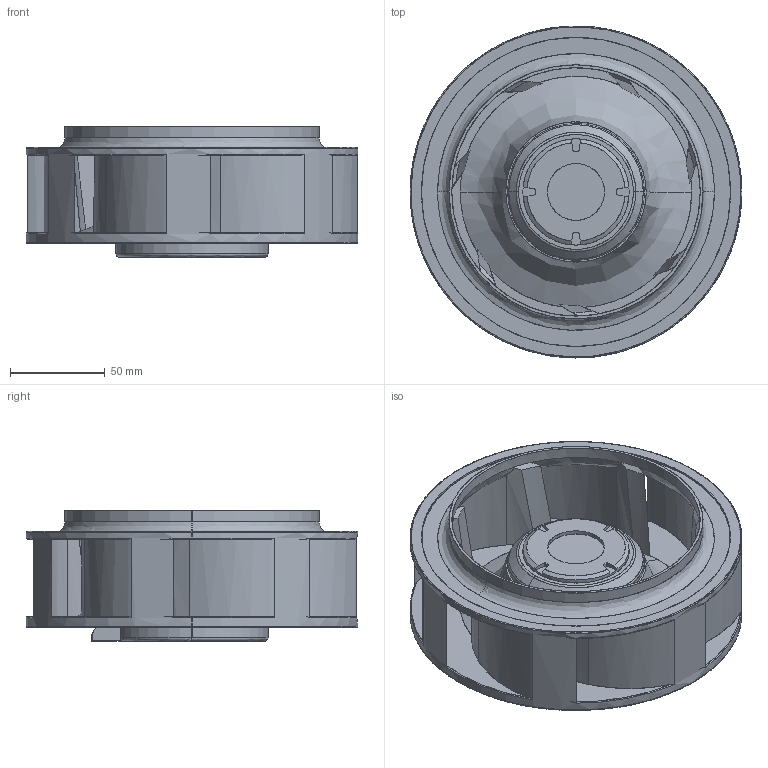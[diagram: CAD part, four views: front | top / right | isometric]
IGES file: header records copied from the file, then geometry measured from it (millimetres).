
Start section: SolidWorks IGES file using analytic representation for surfaces
Global section: file name: C:\Users\Okuda-Yuusuke\Documents\開発品\φ175x69TGA\客先向け3Dデータ\φ175x69_9TGA.IGS; native system: SolidWorks 2016; preprocessor: SolidWorks 2016; author: OKUDA-YUUSUKE; date: 161215.115213; units: millimetre
Bounding box: 175 x 175 x 69 mm (x, y, z)
Surface area: 143535.1 mm2 (no closed solid volume)
Topology: 0 solids, 0 shells, 249 faces, 4145 edges, 4131 vertices
Faces by surface type: revolution 140, bspline 109
